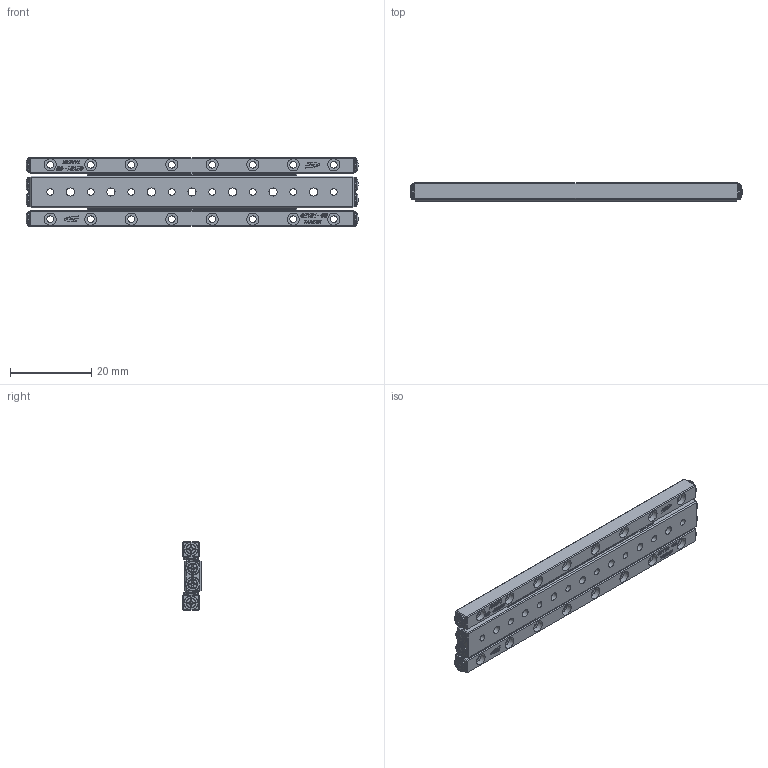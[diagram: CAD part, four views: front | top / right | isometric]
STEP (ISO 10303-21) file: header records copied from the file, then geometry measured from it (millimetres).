
FILE_DESCRIPTION (( 'STEP AP203' ), '1' );
FILE_NAME ('GRD01-80.STEP', '2023-08-10T02:23:59', ( '' ), ( '' ), 'SwSTEP 2.0', 'SolidWorks 2019', '' );
FILE_SCHEMA (( 'CONFIG_CONTROL_DESIGN' ));
Length unit declared in the file: millimetre
Products named in the file (4): GRV01-80-模糊化保持器組; GRD01-80-模糊化中軌; GRD01-80; GRV01-80-模糊化軌道
Assembly tree (5 placements, depth 2):
  GRD01-80
    GRD01-80-模糊化中軌
    GRV01-80-模糊化軌道  x2
    GRV01-80-模糊化保持器組  x2
Bounding box: 81.96 x 4.5 x 17 mm (x, y, z)
Volume: 4442.3 mm3; surface area: 6679.1 mm2
Topology: 5 solids, 13 shells, 2485 faces, 6404 edges, 4184 vertices
Faces by surface type: plane 1613, cylinder 417, bspline 275, torus 92, cone 80, sphere 8
Full cylindrical faces by diameter (mm): 1.32 x8, 1.65 x24, 2 x7, 2.5 x8, 3 x24, 3.5 x8
Entity records: 49440 total; most frequent: CARTESIAN_POINT 15820, ORIENTED_EDGE 7268, DIRECTION 5983, EDGE_CURVE 3634, VERTEX_POINT 2408, LINE 2285, VECTOR 2285, AXIS2_PLACEMENT_3D 1849
